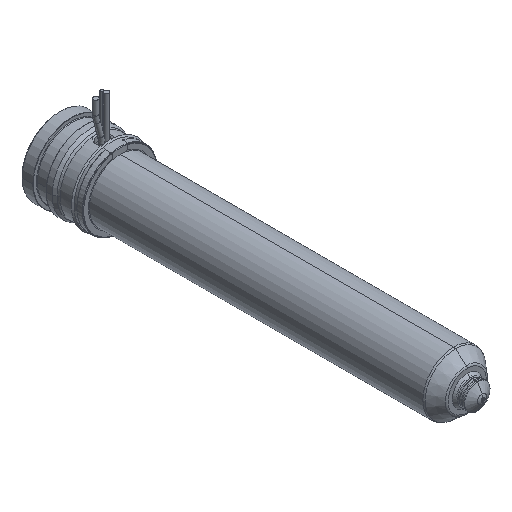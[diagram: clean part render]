
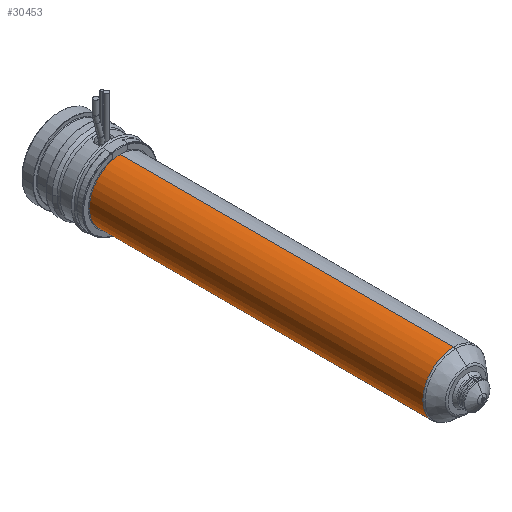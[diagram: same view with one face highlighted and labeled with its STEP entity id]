
A CAD part, isometric view. The second image highlights one B-rep face of the part: STEP entity #30453.
In plain terms, the highlighted cylindrical face has radius 12 mm (diameter 24 mm), a partial arc.
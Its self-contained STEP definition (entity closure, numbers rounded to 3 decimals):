
#29844=CARTESIAN_POINT('',(0.,-153.736,0.));
#29845=DIRECTION('',(0.,-1.,0.));
#29846=DIRECTION('',(0.,0.,1.));
#29847=AXIS2_PLACEMENT_3D('',#29844,#29845,#29846);
#29852=CARTESIAN_POINT('',(0.,-24.,0.));
#29853=DIRECTION('',(0.,1.,0.));
#29854=DIRECTION('',(0.,0.,-1.));
#29855=AXIS2_PLACEMENT_3D('',#29852,#29853,#29854);
#29860=DIRECTION('',(0.,1.,0.));
#29861=VECTOR('',#29860,129.736);
#29862=CARTESIAN_POINT('',(0.,-153.736,12.));
#29863=LINE('',#29862,#29861);
#29875=DIRECTION('',(0.,1.,0.));
#29876=VECTOR('',#29875,129.736);
#29877=CARTESIAN_POINT('',(0.,-153.736,-12.));
#29878=LINE('',#29877,#29876);
#30058=CARTESIAN_POINT('',(0.,-153.736,12.));
#30059=CARTESIAN_POINT('',(0.,-24.,12.));
#30060=VERTEX_POINT('',#30058);
#30061=VERTEX_POINT('',#30059);
#30062=CARTESIAN_POINT('',(0.,-153.736,-12.));
#30063=CARTESIAN_POINT('',(0.,-24.,-12.));
#30064=VERTEX_POINT('',#30062);
#30065=VERTEX_POINT('',#30063);
#30439=CARTESIAN_POINT('',(0.,-12.7,0.));
#30440=DIRECTION('',(0.,-1.,0.));
#30441=DIRECTION('',(0.,0.,1.));
#30442=AXIS2_PLACEMENT_3D('',#30439,#30440,#30441);
#30443=CYLINDRICAL_SURFACE('',#30442,12.);
#30445=ORIENTED_EDGE('',*,*,#30444,.F.);
#30446=ORIENTED_EDGE('',*,*,#30434,.T.);
#30448=ORIENTED_EDGE('',*,*,#30447,.T.);
#30450=ORIENTED_EDGE('',*,*,#30449,.T.);
#30451=EDGE_LOOP('',(#30445,#30446,#30448,#30450));
#30452=FACE_OUTER_BOUND('',#30451,.F.);
#30453=ADVANCED_FACE('',(#30452),#30443,.T.);
#29848=CIRCLE('',#29847,12.);
#29856=CIRCLE('',#29855,12.);
#30434=EDGE_CURVE('',#30060,#30064,#29848,.T.);
#30444=EDGE_CURVE('',#30060,#30061,#29863,.T.);
#30447=EDGE_CURVE('',#30064,#30065,#29878,.T.);
#30449=EDGE_CURVE('',#30065,#30061,#29856,.T.);
